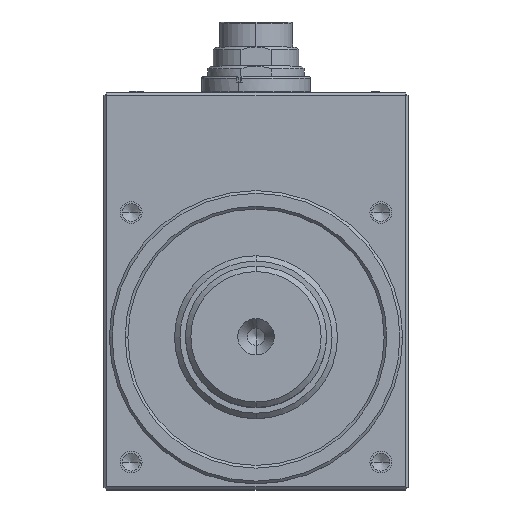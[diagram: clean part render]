
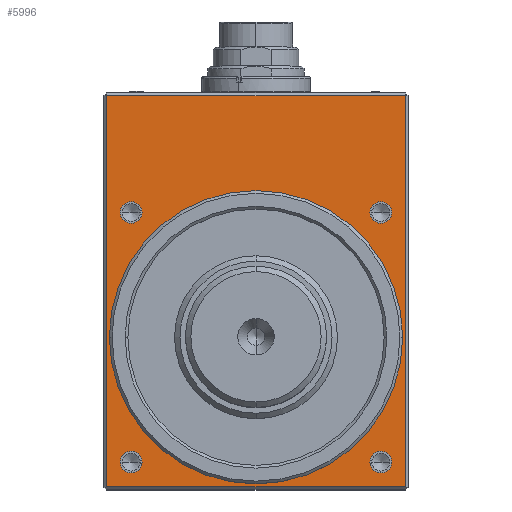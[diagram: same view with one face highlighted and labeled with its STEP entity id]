
A CAD part, top view. The second image highlights one B-rep face of the part: STEP entity #5996.
In plain terms, the highlighted free-form (B-spline) face has degree [1, 1] with [2, 2] control points.
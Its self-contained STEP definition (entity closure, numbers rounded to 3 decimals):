
#760=DIRECTION('',(1.,0.,0.));
#761=VECTOR('',#760,55.);
#762=CARTESIAN_POINT('',(-27.5,44.5,-3.));
#763=LINE('',#762,#761);
#808=DIRECTION('',(0.,-1.,0.));
#809=VECTOR('',#808,72.);
#810=CARTESIAN_POINT('',(-27.5,44.5,-3.));
#811=LINE('',#810,#809);
#812=CARTESIAN_POINT('',(0.,0.,-3.));
#813=DIRECTION('',(0.,0.,-1.));
#814=DIRECTION('',(-1.,0.,0.));
#815=AXIS2_PLACEMENT_3D('',#812,#813,#814);
#817=CARTESIAN_POINT('',(0.,0.,-3.));
#818=DIRECTION('',(0.,0.,-1.));
#819=DIRECTION('',(1.,0.,0.));
#820=AXIS2_PLACEMENT_3D('',#817,#818,#819);
#822=CARTESIAN_POINT('',(-22.981,22.981,-3.));
#823=DIRECTION('',(0.,0.,-1.));
#824=DIRECTION('',(-1.,0.,0.));
#825=AXIS2_PLACEMENT_3D('',#822,#823,#824);
#827=CARTESIAN_POINT('',(-22.981,22.981,-3.));
#828=DIRECTION('',(0.,0.,-1.));
#829=DIRECTION('',(1.,0.,0.));
#830=AXIS2_PLACEMENT_3D('',#827,#828,#829);
#832=CARTESIAN_POINT('',(22.981,22.981,-3.));
#833=DIRECTION('',(0.,0.,-1.));
#834=DIRECTION('',(-1.,0.,0.));
#835=AXIS2_PLACEMENT_3D('',#832,#833,#834);
#837=CARTESIAN_POINT('',(22.981,22.981,-3.));
#838=DIRECTION('',(0.,0.,-1.));
#839=DIRECTION('',(1.,0.,0.));
#840=AXIS2_PLACEMENT_3D('',#837,#838,#839);
#842=CARTESIAN_POINT('',(-22.981,-22.981,-3.));
#843=DIRECTION('',(0.,0.,-1.));
#844=DIRECTION('',(-1.,0.,0.));
#845=AXIS2_PLACEMENT_3D('',#842,#843,#844);
#847=CARTESIAN_POINT('',(-22.981,-22.981,-3.));
#848=DIRECTION('',(0.,0.,-1.));
#849=DIRECTION('',(1.,0.,0.));
#850=AXIS2_PLACEMENT_3D('',#847,#848,#849);
#852=CARTESIAN_POINT('',(22.981,-22.981,-3.));
#853=DIRECTION('',(0.,0.,-1.));
#854=DIRECTION('',(-1.,0.,0.));
#855=AXIS2_PLACEMENT_3D('',#852,#853,#854);
#857=CARTESIAN_POINT('',(22.981,-22.981,-3.));
#858=DIRECTION('',(0.,0.,-1.));
#859=DIRECTION('',(1.,0.,0.));
#860=AXIS2_PLACEMENT_3D('',#857,#858,#859);
#866=DIRECTION('',(0.,1.,0.));
#867=VECTOR('',#866,72.);
#868=CARTESIAN_POINT('',(27.5,-27.5,-3.));
#869=LINE('',#868,#867);
#1000=DIRECTION('',(-1.,0.,0.));
#1001=VECTOR('',#1000,55.);
#1002=CARTESIAN_POINT('',(27.5,-27.5,-3.));
#1003=LINE('',#1002,#1001);
#3661=CARTESIAN_POINT('',(27.5,44.5,-3.));
#3662=VERTEX_POINT('',#3661);
#3669=CARTESIAN_POINT('',(-27.5,44.5,-3.));
#3670=VERTEX_POINT('',#3669);
#3813=CARTESIAN_POINT('',(-27.,0.,-3.));
#3814=VERTEX_POINT('',#3813);
#3815=CARTESIAN_POINT('',(27.5,-27.5,-3.));
#3817=VERTEX_POINT('',#3815);
#3827=CARTESIAN_POINT('',(27.,0.,-3.));
#3828=VERTEX_POINT('',#3827);
#3877=CARTESIAN_POINT('',(-27.5,-27.5,-3.));
#3878=VERTEX_POINT('',#3877);
#4101=CARTESIAN_POINT('',(-24.981,22.981,-3.));
#4102=CARTESIAN_POINT('',(-20.981,22.981,-3.));
#4103=VERTEX_POINT('',#4101);
#4104=VERTEX_POINT('',#4102);
#4113=CARTESIAN_POINT('',(20.981,22.981,-3.));
#4114=CARTESIAN_POINT('',(24.981,22.981,-3.));
#4115=VERTEX_POINT('',#4113);
#4116=VERTEX_POINT('',#4114);
#4125=CARTESIAN_POINT('',(-24.981,-22.981,-3.));
#4126=CARTESIAN_POINT('',(-20.981,-22.981,-3.));
#4127=VERTEX_POINT('',#4125);
#4128=VERTEX_POINT('',#4126);
#4133=CARTESIAN_POINT('',(20.981,-22.981,-3.));
#4134=CARTESIAN_POINT('',(24.981,-22.981,-3.));
#4135=VERTEX_POINT('',#4133);
#4136=VERTEX_POINT('',#4134);
#5953=CARTESIAN_POINT('',(-28.6,-28.94,-3.));
#5954=CARTESIAN_POINT('',(28.6,-28.94,-3.));
#5955=CARTESIAN_POINT('',(-28.6,45.94,-3.));
#5956=CARTESIAN_POINT('',(28.6,45.94,-3.));
#5957=B_SPLINE_SURFACE_WITH_KNOTS('',1,1,((#5953,#5954),(#5955,#5956)),
.UNSPECIFIED.,.F.,.F.,.F.,(2,2),(2,2),(-56.94,17.94),(-56.6,0.6),
.UNSPECIFIED.);
#5959=ORIENTED_EDGE('',*,*,#5958,.F.);
#5961=ORIENTED_EDGE('',*,*,#5960,.T.);
#5962=ORIENTED_EDGE('',*,*,#5942,.F.);
#5963=ORIENTED_EDGE('',*,*,#5861,.T.);
#5964=EDGE_LOOP('',(#5959,#5961,#5962,#5963));
#5965=FACE_OUTER_BOUND('',#5964,.F.);
#5967=ORIENTED_EDGE('',*,*,#5966,.F.);
#5969=ORIENTED_EDGE('',*,*,#5968,.F.);
#5970=EDGE_LOOP('',(#5967,#5969));
#5971=FACE_BOUND('',#5970,.F.);
#5973=ORIENTED_EDGE('',*,*,#5972,.F.);
#5975=ORIENTED_EDGE('',*,*,#5974,.F.);
#5976=EDGE_LOOP('',(#5973,#5975));
#5977=FACE_BOUND('',#5976,.F.);
#5979=ORIENTED_EDGE('',*,*,#5978,.F.);
#5981=ORIENTED_EDGE('',*,*,#5980,.F.);
#5982=EDGE_LOOP('',(#5979,#5981));
#5983=FACE_BOUND('',#5982,.F.);
#5985=ORIENTED_EDGE('',*,*,#5984,.F.);
#5987=ORIENTED_EDGE('',*,*,#5986,.F.);
#5988=EDGE_LOOP('',(#5985,#5987));
#5989=FACE_BOUND('',#5988,.F.);
#5991=ORIENTED_EDGE('',*,*,#5990,.F.);
#5993=ORIENTED_EDGE('',*,*,#5992,.F.);
#5994=EDGE_LOOP('',(#5991,#5993));
#5995=FACE_BOUND('',#5994,.F.);
#816=CIRCLE('',#815,27.);
#821=CIRCLE('',#820,27.);
#826=CIRCLE('',#825,2.);
#831=CIRCLE('',#830,2.);
#836=CIRCLE('',#835,2.);
#841=CIRCLE('',#840,2.);
#846=CIRCLE('',#845,2.);
#851=CIRCLE('',#850,2.);
#856=CIRCLE('',#855,2.);
#861=CIRCLE('',#860,2.);
#5861=EDGE_CURVE('',#3670,#3662,#763,.T.);
#5942=EDGE_CURVE('',#3670,#3878,#811,.T.);
#5958=EDGE_CURVE('',#3817,#3662,#869,.T.);
#5960=EDGE_CURVE('',#3817,#3878,#1003,.T.);
#5966=EDGE_CURVE('',#3814,#3828,#816,.T.);
#5968=EDGE_CURVE('',#3828,#3814,#821,.T.);
#5972=EDGE_CURVE('',#4103,#4104,#826,.T.);
#5974=EDGE_CURVE('',#4104,#4103,#831,.T.);
#5978=EDGE_CURVE('',#4115,#4116,#836,.T.);
#5980=EDGE_CURVE('',#4116,#4115,#841,.T.);
#5984=EDGE_CURVE('',#4127,#4128,#846,.T.);
#5986=EDGE_CURVE('',#4128,#4127,#851,.T.);
#5990=EDGE_CURVE('',#4135,#4136,#856,.T.);
#5992=EDGE_CURVE('',#4136,#4135,#861,.T.);
#5996=ADVANCED_FACE('',(#5965,#5971,#5977,#5983,#5989,#5995),#5957,.F.);
